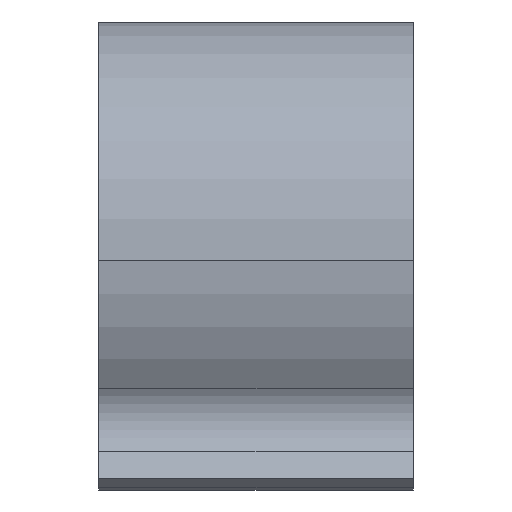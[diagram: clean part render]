
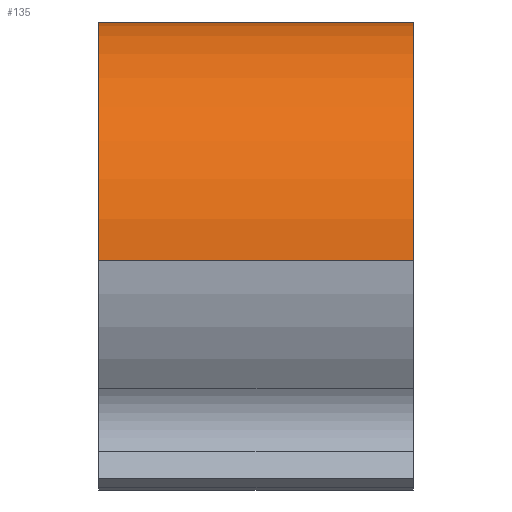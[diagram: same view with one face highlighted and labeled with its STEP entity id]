
A CAD part, top view. The second image highlights one B-rep face of the part: STEP entity #135.
In plain terms, the highlighted cylindrical face has radius 19 mm (diameter 38 mm), a partial arc.
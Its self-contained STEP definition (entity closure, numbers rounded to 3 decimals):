
#6 = DIRECTION ( 'NONE',  ( -1., 0., 0. ) ) ;
#24 = CARTESIAN_POINT ( 'NONE',  ( 12.5, 0., 19. ) ) ;
#33 = VECTOR ( 'NONE', #42, 1000. ) ;
#42 = DIRECTION ( 'NONE',  ( -1., 0., 0. ) ) ;
#49 = DIRECTION ( 'NONE',  ( 0., 0., 1. ) ) ;
#69 = AXIS2_PLACEMENT_3D ( 'NONE', #166, #281, #223 ) ;
#107 = LINE ( 'NONE', #569, #140 ) ;
#135 = ADVANCED_FACE ( 'NONE', ( #200 ), #421, .T. ) ;
#140 = VECTOR ( 'NONE', #453, 1000. ) ;
#156 = CARTESIAN_POINT ( 'NONE',  ( -12.5, 19., 0. ) ) ;
#166 = CARTESIAN_POINT ( 'NONE',  ( -12.5, 0., 0. ) ) ;
#176 = VERTEX_POINT ( 'NONE', #156 ) ;
#185 = VERTEX_POINT ( 'NONE', #398 ) ;
#200 = FACE_OUTER_BOUND ( 'NONE', #374, .T. ) ;
#222 = ORIENTED_EDGE ( 'NONE', *, *, #623, .F. ) ;
#223 = DIRECTION ( 'NONE',  ( 0., 0., -1. ) ) ;
#281 = DIRECTION ( 'NONE',  ( -1., 0., 0. ) ) ;
#286 = AXIS2_PLACEMENT_3D ( 'NONE', #547, #605, #481 ) ;
#302 = EDGE_CURVE ( 'NONE', #522, #526, #627, .T. ) ;
#374 = EDGE_LOOP ( 'NONE', ( #222, #607, #669, #619 ) ) ;
#398 = CARTESIAN_POINT ( 'NONE',  ( -12.5, 0., 19. ) ) ;
#421 = CYLINDRICAL_SURFACE ( 'NONE', #440, 19. ) ;
#440 = AXIS2_PLACEMENT_3D ( 'NONE', #665, #6, #49 ) ;
#453 = DIRECTION ( 'NONE',  ( -1., 0., 0. ) ) ;
#474 = EDGE_CURVE ( 'NONE', #526, #176, #744, .T. ) ;
#481 = DIRECTION ( 'NONE',  ( 0., 0., -1. ) ) ;
#491 = CARTESIAN_POINT ( 'NONE',  ( 12.5, 19., 0. ) ) ;
#522 = VERTEX_POINT ( 'NONE', #24 ) ;
#526 = VERTEX_POINT ( 'NONE', #491 ) ;
#530 = CIRCLE ( 'NONE', #69, 19. ) ;
#547 = CARTESIAN_POINT ( 'NONE',  ( 12.5, 0., 0. ) ) ;
#569 = CARTESIAN_POINT ( 'NONE',  ( 12.5, 0., 19. ) ) ;
#598 = EDGE_CURVE ( 'NONE', #185, #176, #530, .T. ) ;
#605 = DIRECTION ( 'NONE',  ( -1., 0., 0. ) ) ;
#607 = ORIENTED_EDGE ( 'NONE', *, *, #302, .T. ) ;
#619 = ORIENTED_EDGE ( 'NONE', *, *, #598, .F. ) ;
#623 = EDGE_CURVE ( 'NONE', #522, #185, #107, .T. ) ;
#627 = CIRCLE ( 'NONE', #286, 19. ) ;
#665 = CARTESIAN_POINT ( 'NONE',  ( 12.5, 0., 0. ) ) ;
#669 = ORIENTED_EDGE ( 'NONE', *, *, #474, .T. ) ;
#672 = CARTESIAN_POINT ( 'NONE',  ( 12.5, 19., 0. ) ) ;
#744 = LINE ( 'NONE', #672, #33 ) ;
